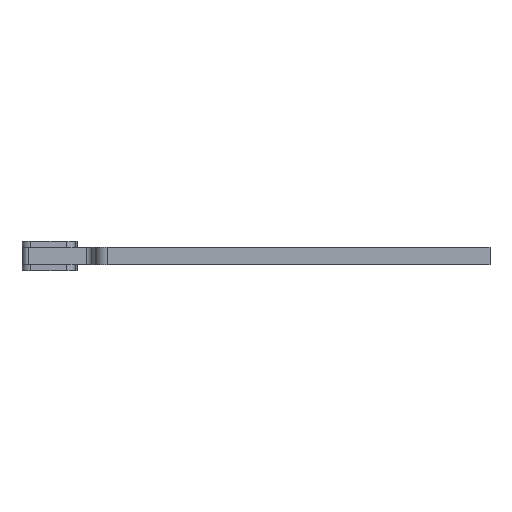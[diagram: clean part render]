
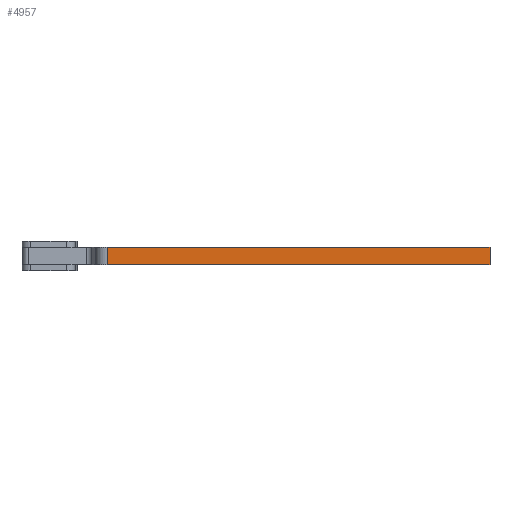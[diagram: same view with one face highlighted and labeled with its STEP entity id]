
A CAD part, front view. The second image highlights one B-rep face of the part: STEP entity #4957.
In plain terms, the highlighted planar face has unit normal (0, -1, 0).
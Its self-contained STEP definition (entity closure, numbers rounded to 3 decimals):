
#66=LINE('',#7121,#533);
#83=LINE('',#7176,#550);
#460=LINE('',#8328,#927);
#472=LINE('',#8371,#939);
#533=VECTOR('',#5638,38.1);
#550=VECTOR('',#5681,826.226);
#927=VECTOR('',#6856,826.226);
#939=VECTOR('',#6892,38.1);
#1104=PLANE('',#5469);
#1419=FACE_OUTER_BOUND('',#1734,.T.);
#1734=EDGE_LOOP('',(#4568,#4569,#4570,#4571));
#2028=VERTEX_POINT('',#7115);
#2030=VERTEX_POINT('',#7119);
#2055=VERTEX_POINT('',#7174);
#2431=VERTEX_POINT('',#8327);
#2522=EDGE_CURVE('',#2028,#2030,#66,.T.);
#2550=EDGE_CURVE('',#2055,#2030,#83,.T.);
#3115=EDGE_CURVE('',#2028,#2431,#460,.T.);
#3138=EDGE_CURVE('',#2055,#2431,#472,.T.);
#4568=ORIENTED_EDGE('',*,*,#2522,.T.);
#4569=ORIENTED_EDGE('',*,*,#2550,.F.);
#4570=ORIENTED_EDGE('',*,*,#3138,.T.);
#4571=ORIENTED_EDGE('',*,*,#3115,.F.);
#4957=ADVANCED_FACE('',(#1419),#1104,.T.);
#5469=AXIS2_PLACEMENT_3D('',#8412,#6954,#6955);
#5638=DIRECTION('',(0.,0.,1.));
#5681=DIRECTION('',(1.,0.,0.));
#6856=DIRECTION('',(-1.,0.,0.));
#6892=DIRECTION('',(0.,0.,-1.));
#6954=DIRECTION('center_axis',(0.,-1.,0.));
#6955=DIRECTION('ref_axis',(1.,0.,0.));
#7115=CARTESIAN_POINT('',(-123.04,0.,-19.05));
#7119=CARTESIAN_POINT('',(-123.04,0.,19.05));
#7121=CARTESIAN_POINT('',(-123.04,0.,9.525));
#7174=CARTESIAN_POINT('',(-949.266,0.,19.05));
#7176=CARTESIAN_POINT('',(0.,0.,19.05));
#8327=CARTESIAN_POINT('',(-949.266,0.,-19.05));
#8328=CARTESIAN_POINT('',(0.,0.,-19.05));
#8371=CARTESIAN_POINT('',(-949.266,0.,0.));
#8412=CARTESIAN_POINT('Origin',(-949.266,0.,
0.));
